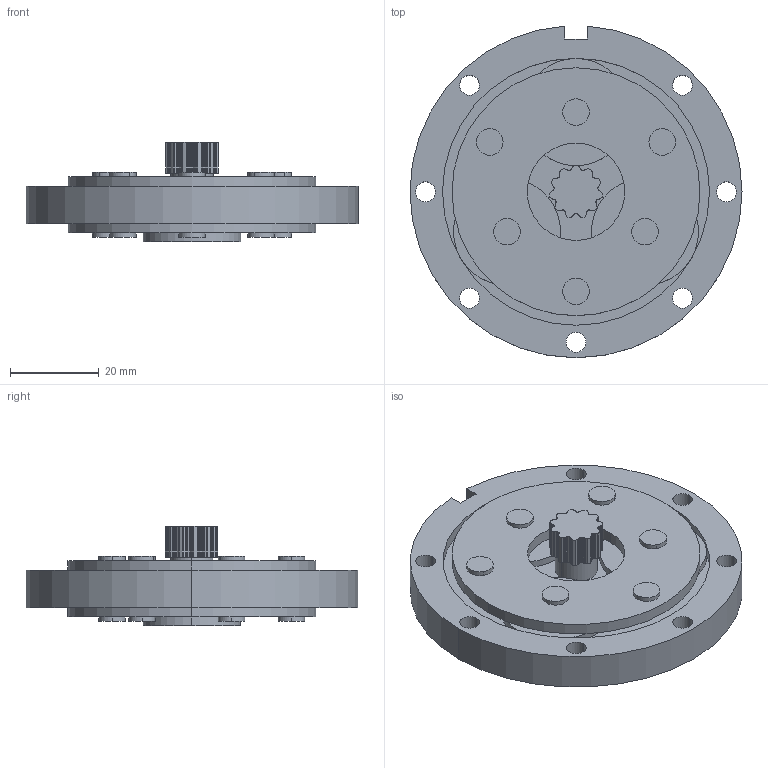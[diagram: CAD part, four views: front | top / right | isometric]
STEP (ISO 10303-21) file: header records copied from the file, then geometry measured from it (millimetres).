
FILE_DESCRIPTION (( 'STEP AP203' ), '1' );
FILE_NAME ('LGU75-5MLD.step', '2021-07-23T02:28:51', ( '' ), ( '' ), 'SwSTEP 2.0', 'SolidWorks 2021', '' );
FILE_SCHEMA (( 'CONFIG_CONTROL_DESIGN' ));
Length unit declared in the file: millimetre
Products named in the file (1): LGU75-5MLD
Bounding box: 75 x 74.92 x 22.5 mm (x, y, z)
Volume: 40110.7 mm3; surface area: 23841.2 mm2
Topology: 1 solids, 1 shells, 422 faces, 1179 edges, 786 vertices
Faces by surface type: cylinder 390, plane 32
Entity records: 14172 total; most frequent: DIRECTION 2805, CARTESIAN_POINT 2388, ORIENTED_EDGE 2358, AXIS2_PLACEMENT_3D 1203, EDGE_CURVE 1179, VERTEX_POINT 786, CIRCLE 780, EDGE_LOOP 475
